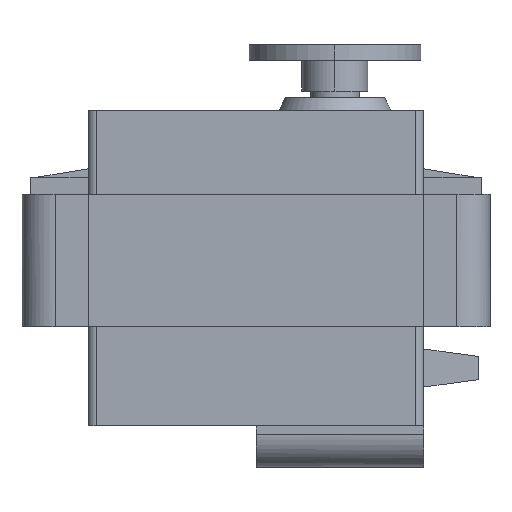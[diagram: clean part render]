
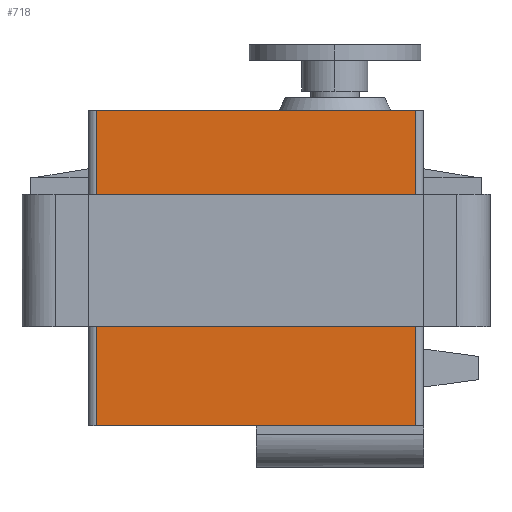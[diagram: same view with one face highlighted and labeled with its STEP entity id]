
A CAD part, left-side view. The second image highlights one B-rep face of the part: STEP entity #718.
In plain terms, the highlighted planar face has unit normal (-1, 0, 0).
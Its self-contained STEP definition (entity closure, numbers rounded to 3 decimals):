
#50=B_SPLINE_CURVE_WITH_KNOTS('',1,(#5844,#5845),.UNSPECIFIED.,.F.,.F.,
(2,2),(61.4,100.),.UNSPECIFIED.);
#54=B_SPLINE_CURVE_WITH_KNOTS('',1,(#5852,#5853),.UNSPECIFIED.,.F.,.F.,
(2,2),(61.4,100.),.UNSPECIFIED.);
#60=B_SPLINE_CURVE_WITH_KNOTS('',1,(#5864,#5865),.UNSPECIFIED.,.F.,.F.,
(2,2),(0.,38.1),.UNSPECIFIED.);
#61=B_SPLINE_CURVE_WITH_KNOTS('',1,(#5866,#5867),.UNSPECIFIED.,.F.,.F.,
(2,2),(0.,38.1),.UNSPECIFIED.);
#718=ADVANCED_FACE('',(#989),#4278,.T.);
#989=FACE_OUTER_BOUND('',#1289,.T.);
#1289=EDGE_LOOP('',(#1849,#1850,#1851,#1852));
#1849=ORIENTED_EDGE('',*,*,#2997,.T.);
#1850=ORIENTED_EDGE('',*,*,#2991,.T.);
#1851=ORIENTED_EDGE('',*,*,#2998,.F.);
#1852=ORIENTED_EDGE('',*,*,#2987,.F.);
#2987=EDGE_CURVE('',#3921,#3920,#50,.T.);
#2991=EDGE_CURVE('',#3929,#3928,#54,.T.);
#2997=EDGE_CURVE('',#3921,#3929,#60,.T.);
#2998=EDGE_CURVE('',#3920,#3928,#61,.T.);
#3920=VERTEX_POINT('',#5828);
#3921=VERTEX_POINT('',#5829);
#3928=VERTEX_POINT('',#5836);
#3929=VERTEX_POINT('',#5837);
#4278=PLANE('',#4569);
#4569=AXIS2_PLACEMENT_3D('',#5799,#4728,$);
#4728=DIRECTION('',(-1.,0.,0.));
#5799=CARTESIAN_POINT('',(-59.9,20.3,-20.));
#5828=CARTESIAN_POINT('',(-59.9,-19.3,18.1));
#5829=CARTESIAN_POINT('',(-59.9,19.3,18.1));
#5836=CARTESIAN_POINT('',(-59.9,-19.3,-20.));
#5837=CARTESIAN_POINT('',(-59.9,19.3,-20.));
#5844=CARTESIAN_POINT('',(-59.9,19.3,18.1));
#5845=CARTESIAN_POINT('',(-59.9,-19.3,18.1));
#5852=CARTESIAN_POINT('',(-59.9,19.3,-20.));
#5853=CARTESIAN_POINT('',(-59.9,-19.3,-20.));
#5864=CARTESIAN_POINT('',(-59.9,19.3,18.1));
#5865=CARTESIAN_POINT('',(-59.9,19.3,-20.));
#5866=CARTESIAN_POINT('',(-59.9,-19.3,18.1));
#5867=CARTESIAN_POINT('',(-59.9,-19.3,-20.));
